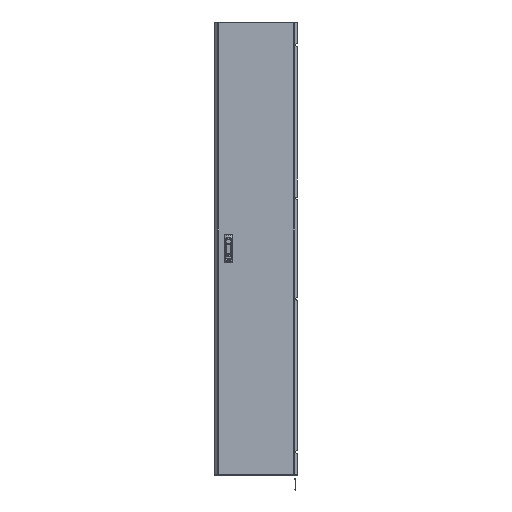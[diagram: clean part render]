
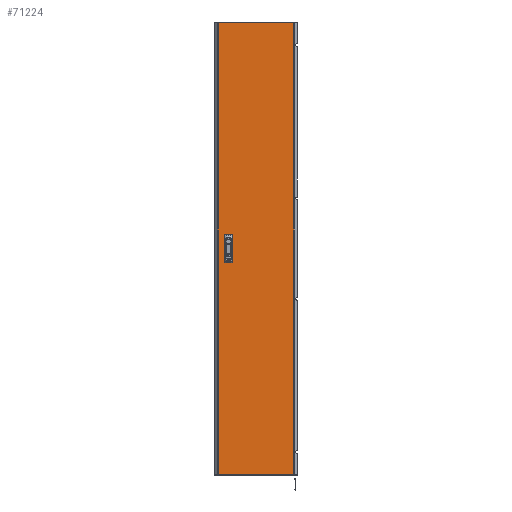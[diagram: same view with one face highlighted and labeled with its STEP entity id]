
A CAD part, top view. The second image highlights one B-rep face of the part: STEP entity #71224.
In plain terms, the highlighted planar face has unit normal (0, 0, 1).
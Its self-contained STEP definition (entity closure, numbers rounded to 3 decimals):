
#1562 = LINE ( 'NONE', #119086, #133819 ) ;
#3004 = VECTOR ( 'NONE', #87689, 1000. ) ;
#4365 = ORIENTED_EDGE ( 'NONE', *, *, #9877, .F. ) ;
#4418 = VERTEX_POINT ( 'NONE', #82875 ) ;
#9877 = EDGE_CURVE ( 'NONE', #55532, #36704, #106384, .T. ) ;
#11045 = EDGE_LOOP ( 'NONE', ( #59645, #52190, #20949, #4365 ) ) ;
#11959 = CARTESIAN_POINT ( 'NONE',  ( -177.875, 1069.5, 0. ) ) ;
#12191 = DIRECTION ( 'NONE',  ( -1., 0., 0. ) ) ;
#13902 = CARTESIAN_POINT ( 'NONE',  ( -117.5, -62.5, 0. ) ) ;
#14501 = LINE ( 'NONE', #44290, #24493 ) ;
#15097 = CARTESIAN_POINT ( 'NONE',  ( -142.5, 62.5, 0. ) ) ;
#16007 = LINE ( 'NONE', #48551, #66861 ) ;
#19099 = VECTOR ( 'NONE', #62419, 1000. ) ;
#19212 = LINE ( 'NONE', #84299, #19099 ) ;
#20844 = LINE ( 'NONE', #74637, #31002 ) ;
#20949 = ORIENTED_EDGE ( 'NONE', *, *, #118429, .F. ) ;
#21153 = LINE ( 'NONE', #130126, #114291 ) ;
#22765 = EDGE_LOOP ( 'NONE', ( #48540, #65395, #73545, #47039 ) ) ;
#23531 = CARTESIAN_POINT ( 'NONE',  ( -142.5, 12.5, 0. ) ) ;
#24493 = VECTOR ( 'NONE', #54929, 1000. ) ;
#24750 = VECTOR ( 'NONE', #125723, 1000. ) ;
#27663 = VECTOR ( 'NONE', #76947, 1000. ) ;
#27811 = VERTEX_POINT ( 'NONE', #105153 ) ;
#30358 = VERTEX_POINT ( 'NONE', #41192 ) ;
#30698 = FACE_OUTER_BOUND ( 'NONE', #22765, .T. ) ;
#31002 = VECTOR ( 'NONE', #73926, 1000. ) ;
#32366 = LINE ( 'NONE', #130050, #27663 ) ;
#36234 = VERTEX_POINT ( 'NONE', #89707 ) ;
#36704 = VERTEX_POINT ( 'NONE', #23531 ) ;
#38689 = CARTESIAN_POINT ( 'NONE',  ( 177.875, -1069.5, 0. ) ) ;
#41192 = CARTESIAN_POINT ( 'NONE',  ( -177.875, -1069.5, 0. ) ) ;
#42632 = ORIENTED_EDGE ( 'NONE', *, *, #129323, .F. ) ;
#42849 = EDGE_CURVE ( 'NONE', #56468, #36234, #59897, .T. ) ;
#44290 = CARTESIAN_POINT ( 'NONE',  ( -142.5, 12.5, 0. ) ) ;
#47039 = ORIENTED_EDGE ( 'NONE', *, *, #65739, .T. ) ;
#47490 = EDGE_CURVE ( 'NONE', #110633, #30358, #20844, .T. ) ;
#48540 = ORIENTED_EDGE ( 'NONE', *, *, #115999, .T. ) ;
#48551 = CARTESIAN_POINT ( 'NONE',  ( -177.875, -1069.5, 0. ) ) ;
#48674 = VECTOR ( 'NONE', #103019, 1000. ) ;
#50477 = AXIS2_PLACEMENT_3D ( 'NONE', #93675, #136900, #73879 ) ;
#50528 = PLANE ( 'NONE',  #50477 ) ;
#50846 = EDGE_CURVE ( 'NONE', #36234, #4418, #112439, .T. ) ;
#51212 = DIRECTION ( 'NONE',  ( 0., -1., 0. ) ) ;
#51510 = VERTEX_POINT ( 'NONE', #92107 ) ;
#52190 = ORIENTED_EDGE ( 'NONE', *, *, #84961, .F. ) ;
#54929 = DIRECTION ( 'NONE',  ( 1., 0., 0. ) ) ;
#55532 = VERTEX_POINT ( 'NONE', #15097 ) ;
#56468 = VERTEX_POINT ( 'NONE', #59028 ) ;
#56819 = EDGE_CURVE ( 'NONE', #124324, #55532, #1562, .T. ) ;
#57287 = DIRECTION ( 'NONE',  ( -1., 0., 0. ) ) ;
#59028 = CARTESIAN_POINT ( 'NONE',  ( -117.5, -62.5, 0. ) ) ;
#59645 = ORIENTED_EDGE ( 'NONE', *, *, #56819, .F. ) ;
#59897 = LINE ( 'NONE', #13902, #48674 ) ;
#60474 = FACE_BOUND ( 'NONE', #11045, .T. ) ;
#61343 = LINE ( 'NONE', #38689, #24750 ) ;
#62419 = DIRECTION ( 'NONE',  ( 0., -1., 0. ) ) ;
#62623 = EDGE_LOOP ( 'NONE', ( #84060, #123904, #86911, #42632 ) ) ;
#65395 = ORIENTED_EDGE ( 'NONE', *, *, #84011, .T. ) ;
#65739 = EDGE_CURVE ( 'NONE', #30358, #90334, #16007, .T. ) ;
#66861 = VECTOR ( 'NONE', #91722, 1000. ) ;
#71224 = ADVANCED_FACE ( 'NONE', ( #60474, #103609, #30698 ), #50528, .F. ) ;
#73545 = ORIENTED_EDGE ( 'NONE', *, *, #47490, .T. ) ;
#73879 = DIRECTION ( 'NONE',  ( -1., 0., 0. ) ) ;
#73926 = DIRECTION ( 'NONE',  ( 0., -1., 0. ) ) ;
#74637 = CARTESIAN_POINT ( 'NONE',  ( -177.875, -1069.5, 0. ) ) ;
#75624 = DIRECTION ( 'NONE',  ( 1., 0., 0. ) ) ;
#76947 = DIRECTION ( 'NONE',  ( 0., 1., 0. ) ) ;
#82875 = CARTESIAN_POINT ( 'NONE',  ( -142.5, -12.5, 0. ) ) ;
#83051 = CARTESIAN_POINT ( 'NONE',  ( -142.5, 12.5, 0. ) ) ;
#84011 = EDGE_CURVE ( 'NONE', #118664, #110633, #108901, .T. ) ;
#84060 = ORIENTED_EDGE ( 'NONE', *, *, #50846, .F. ) ;
#84299 = CARTESIAN_POINT ( 'NONE',  ( -142.5, -62.5, 0. ) ) ;
#84961 = EDGE_CURVE ( 'NONE', #51510, #124324, #32366, .T. ) ;
#86911 = ORIENTED_EDGE ( 'NONE', *, *, #108137, .F. ) ;
#87689 = DIRECTION ( 'NONE',  ( -1., 0., 0. ) ) ;
#89707 = CARTESIAN_POINT ( 'NONE',  ( -117.5, -12.5, 0. ) ) ;
#90334 = VERTEX_POINT ( 'NONE', #132644 ) ;
#91722 = DIRECTION ( 'NONE',  ( 1., 0., 0. ) ) ;
#92107 = CARTESIAN_POINT ( 'NONE',  ( -117.5, 12.5, 0. ) ) ;
#93675 = CARTESIAN_POINT ( 'NONE',  ( 0., 0., 0. ) ) ;
#96874 = CARTESIAN_POINT ( 'NONE',  ( -177.875, 1069.5, 0. ) ) ;
#103019 = DIRECTION ( 'NONE',  ( 0., 1., 0. ) ) ;
#103609 = FACE_BOUND ( 'NONE', #62623, .T. ) ;
#105039 = CARTESIAN_POINT ( 'NONE',  ( 177.875, 1069.5, 0. ) ) ;
#105153 = CARTESIAN_POINT ( 'NONE',  ( -142.5, -62.5, 0. ) ) ;
#106384 = LINE ( 'NONE', #83051, #108809 ) ;
#108137 = EDGE_CURVE ( 'NONE', #27811, #56468, #21153, .T. ) ;
#108809 = VECTOR ( 'NONE', #51212, 1000. ) ;
#108901 = LINE ( 'NONE', #11959, #3004 ) ;
#110633 = VERTEX_POINT ( 'NONE', #96874 ) ;
#112439 = LINE ( 'NONE', #135131, #137828 ) ;
#114291 = VECTOR ( 'NONE', #75624, 1000. ) ;
#115999 = EDGE_CURVE ( 'NONE', #90334, #118664, #61343, .T. ) ;
#117951 = CARTESIAN_POINT ( 'NONE',  ( -117.5, 62.5, 0. ) ) ;
#118429 = EDGE_CURVE ( 'NONE', #36704, #51510, #14501, .T. ) ;
#118664 = VERTEX_POINT ( 'NONE', #105039 ) ;
#119086 = CARTESIAN_POINT ( 'NONE',  ( -142.5, 62.5, 0. ) ) ;
#123904 = ORIENTED_EDGE ( 'NONE', *, *, #42849, .F. ) ;
#124324 = VERTEX_POINT ( 'NONE', #117951 ) ;
#125723 = DIRECTION ( 'NONE',  ( 0., 1., 0. ) ) ;
#129323 = EDGE_CURVE ( 'NONE', #4418, #27811, #19212, .T. ) ;
#130050 = CARTESIAN_POINT ( 'NONE',  ( -117.5, 12.5, 0. ) ) ;
#130126 = CARTESIAN_POINT ( 'NONE',  ( -142.5, -62.5, 0. ) ) ;
#132644 = CARTESIAN_POINT ( 'NONE',  ( 177.875, -1069.5, 0. ) ) ;
#133819 = VECTOR ( 'NONE', #12191, 1000. ) ;
#135131 = CARTESIAN_POINT ( 'NONE',  ( -142.5, -12.5, 0. ) ) ;
#136900 = DIRECTION ( 'NONE',  ( 0., 0., -1. ) ) ;
#137828 = VECTOR ( 'NONE', #57287, 1000. ) ;
